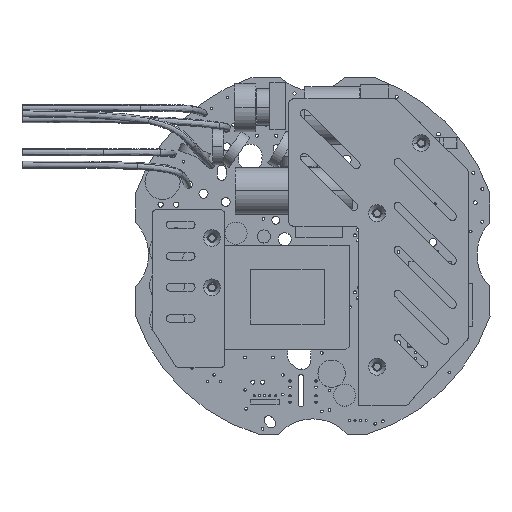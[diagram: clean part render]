
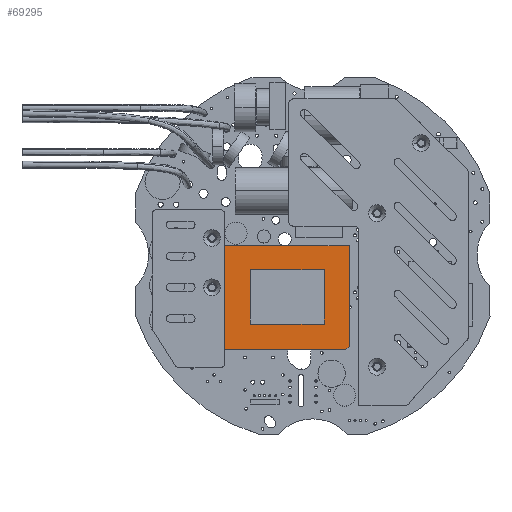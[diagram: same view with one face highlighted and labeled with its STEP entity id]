
A CAD part, top view. The second image highlights one B-rep face of the part: STEP entity #69295.
In plain terms, the highlighted planar face has unit normal (0, 0, 1).
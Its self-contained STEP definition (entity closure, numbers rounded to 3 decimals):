
#68996=DIRECTION('',(0.,1.,0.));
#68997=VECTOR('',#68996,20.95);
#68998=CARTESIAN_POINT('',(-14.,-10.2,24.));
#68999=LINE('',#68998,#68997);
#69003=DIRECTION('',(-1.,0.,0.));
#69004=VECTOR('',#69003,28.45);
#69005=CARTESIAN_POINT('',(14.45,-10.2,24.));
#69006=LINE('',#69005,#69004);
#69010=DIRECTION('',(0.,-1.,0.));
#69011=VECTOR('',#69010,20.95);
#69012=CARTESIAN_POINT('',(14.45,10.75,24.));
#69013=LINE('',#69012,#69011);
#69017=DIRECTION('',(1.,0.,0.));
#69018=VECTOR('',#69017,28.45);
#69019=CARTESIAN_POINT('',(-14.,10.75,24.));
#69020=LINE('',#69019,#69018);
#69024=DIRECTION('',(1.,0.,0.));
#69025=VECTOR('',#69024,10.);
#69026=CARTESIAN_POINT('',(-24.,-20.,24.));
#69027=LINE('',#69026,#69025);
#69031=DIRECTION('',(0.,-1.,0.));
#69032=VECTOR('',#69031,40.);
#69033=CARTESIAN_POINT('',(-24.,20.,24.));
#69034=LINE('',#69033,#69032);
#69038=DIRECTION('',(-1.,0.,0.));
#69039=VECTOR('',#69038,48.);
#69040=CARTESIAN_POINT('',(24.,20.,24.));
#69041=LINE('',#69040,#69039);
#69045=DIRECTION('',(0.,1.,0.));
#69046=VECTOR('',#69045,38.75);
#69047=CARTESIAN_POINT('',(24.,-18.75,24.));
#69048=LINE('',#69047,#69046);
#69052=DIRECTION('',(0.707,0.707,0.));
#69053=VECTOR('',#69052,1.768);
#69054=CARTESIAN_POINT('',(22.75,-20.,24.));
#69055=LINE('',#69054,#69053);
#69059=DIRECTION('',(1.,0.,0.));
#69060=VECTOR('',#69059,36.75);
#69061=CARTESIAN_POINT('',(-14.,-20.,24.));
#69062=LINE('',#69061,#69060);
#69066=CARTESIAN_POINT('',(-14.,10.75,24.));
#69068=VERTEX_POINT('',#69066);
#69070=CARTESIAN_POINT('',(-14.,-10.2,24.));
#69071=VERTEX_POINT('',#69070);
#69074=CARTESIAN_POINT('',(14.45,10.75,24.));
#69076=VERTEX_POINT('',#69074);
#69078=CARTESIAN_POINT('',(14.45,-10.2,24.));
#69080=VERTEX_POINT('',#69078);
#69082=CARTESIAN_POINT('',(-14.,-20.,24.));
#69084=VERTEX_POINT('',#69082);
#69086=CARTESIAN_POINT('',(22.75,-20.,24.));
#69088=VERTEX_POINT('',#69086);
#69090=CARTESIAN_POINT('',(24.,-18.75,24.));
#69092=VERTEX_POINT('',#69090);
#69094=CARTESIAN_POINT('',(24.,20.,24.));
#69096=VERTEX_POINT('',#69094);
#69098=CARTESIAN_POINT('',(-24.,20.,24.));
#69100=VERTEX_POINT('',#69098);
#69102=CARTESIAN_POINT('',(-24.,-20.,24.));
#69104=VERTEX_POINT('',#69102);
#69276=CARTESIAN_POINT('',(-24.,20.,24.));
#69277=DIRECTION('',(0.,0.,1.));
#69278=DIRECTION('',(1.,0.,0.));
#69279=AXIS2_PLACEMENT_3D('',#69276,#69277,#69278);
#69280=PLANE('',#69279);
#69281=ORIENTED_EDGE('',*,*,#69271,.F.);
#69282=ORIENTED_EDGE('',*,*,#69258,.F.);
#69283=ORIENTED_EDGE('',*,*,#69244,.F.);
#69284=ORIENTED_EDGE('',*,*,#69230,.F.);
#69285=ORIENTED_EDGE('',*,*,#69216,.F.);
#69286=ORIENTED_EDGE('',*,*,#69202,.F.);
#69287=EDGE_LOOP('',(#69281,#69282,#69283,#69284,#69285,#69286));
#69288=FACE_OUTER_BOUND('',#69287,.F.);
#69289=ORIENTED_EDGE('',*,*,#69117,.F.);
#69290=ORIENTED_EDGE('',*,*,#69161,.F.);
#69291=ORIENTED_EDGE('',*,*,#69147,.F.);
#69292=ORIENTED_EDGE('',*,*,#69132,.F.);
#69293=EDGE_LOOP('',(#69289,#69290,#69291,#69292));
#69294=FACE_BOUND('',#69293,.F.);
#69117=EDGE_CURVE('',#69071,#69068,#68999,.T.);
#69132=EDGE_CURVE('',#69068,#69076,#69020,.T.);
#69147=EDGE_CURVE('',#69076,#69080,#69013,.T.);
#69161=EDGE_CURVE('',#69080,#69071,#69006,.T.);
#69202=EDGE_CURVE('',#69084,#69088,#69062,.T.);
#69216=EDGE_CURVE('',#69088,#69092,#69055,.T.);
#69230=EDGE_CURVE('',#69092,#69096,#69048,.T.);
#69244=EDGE_CURVE('',#69096,#69100,#69041,.T.);
#69258=EDGE_CURVE('',#69100,#69104,#69034,.T.);
#69271=EDGE_CURVE('',#69104,#69084,#69027,.T.);
#69295=ADVANCED_FACE('',(#69288,#69294),#69280,.T.);
